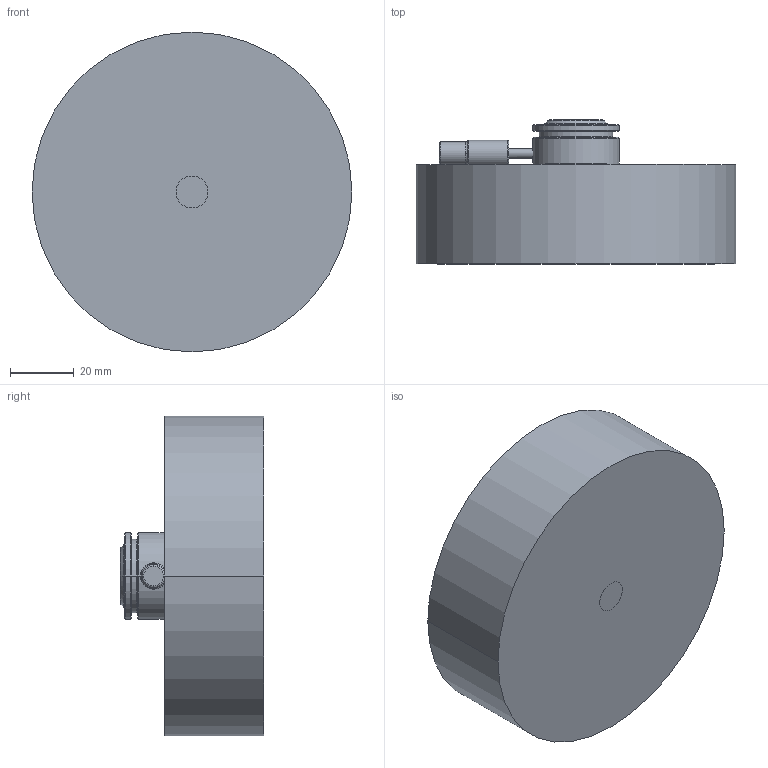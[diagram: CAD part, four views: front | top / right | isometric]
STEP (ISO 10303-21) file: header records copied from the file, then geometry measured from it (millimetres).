
FILE_DESCRIPTION((''),'2;1');
FILE_NAME('M27N101.stp','2020-09-17T12:48:47',(''),(''),'AutoCAD STEP 2000i','AutoCAD 2000i',', , ');
FILE_SCHEMA(('CONFIG_CONTROL_DESIGN'));
Length unit declared in the file: millimetre
Products named in the file (3): DRAWING1; NOZZLE M101N27; MOLD BODY N27
Assembly tree (2 placements, depth 2):
  DRAWING1
    NOZZLE M101N27
    MOLD BODY N27
Bounding box: 100 x 45 x 100 mm (x, y, z)
Volume: 249033.4 mm3; surface area: 31692 mm2
Topology: 2 solids, 2 shells, 102 faces, 241 edges, 151 vertices
Faces by surface type: cylinder 36, cone 30, plane 14, torus 12, bspline 10
Entity records: 3528 total; most frequent: CARTESIAN_POINT 950, DIRECTION 595, ORIENTED_EDGE 478, AXIS2_PLACEMENT_3D 264, EDGE_CURVE 239, CIRCLE 169, VERTEX_POINT 151, EDGE_LOOP 114
